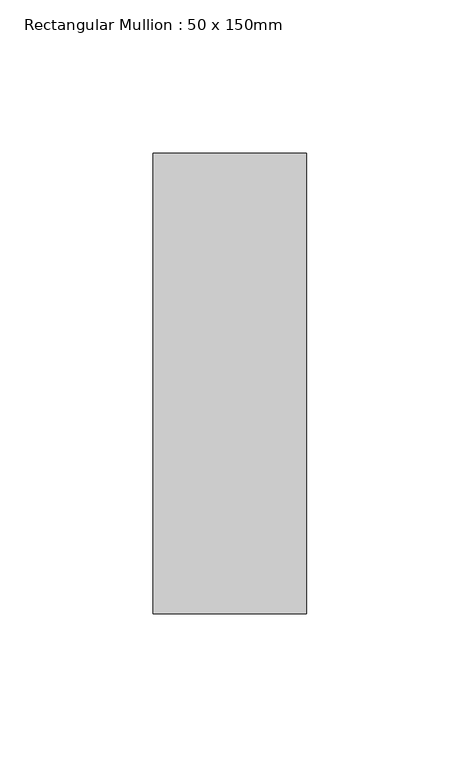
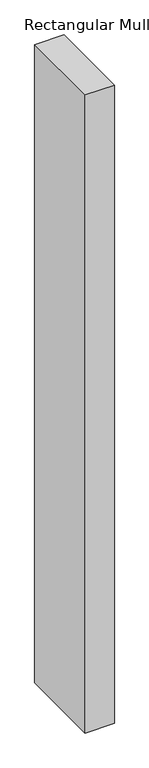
"""IFC4 building model written with IfcOpenShell, lengths in millimetres: member geometry, Rectangular Mullion : 50 x 150mm."""

from ifc_helpers import new_model, si_unit, frame, origin, place, context, project, spatial, polyline, outline, extrude, source, transform, mapped, element, save


def rectangular_mullion_50_x_150mm_232fa5d8(model_context):
    return source(origin(), model_context, "Body", "SweptSolid", [
        extrude(outline(polyline([(0.0, 75.0), (0.0, -75.0), (-50.0, -75.0), (-50.0, 75.0), (0.0, 75.0)])), frame((0.0, 0.0, -1157.1428571), z_axis=(0.0, 0.0, 1.0), x_axis=(1.0, 0.0, 0.0)), (0.0, 0.0, 1.0), 1157.1428571),
    ])


if __name__ == "__main__":
    model = new_model("IFC4")
    model_context = context("Model", 3, world=origin())
    ifc_project = project(units=[si_unit("LENGTHUNIT", "METRE", prefix="MILLI")], contexts=[model_context])
    site = spatial("IfcSite", under=ifc_project)
    building = spatial("IfcBuilding", under=site)
    placement = place(None, origin())
    rectangular_mullion_50_x_150mm_shape = rectangular_mullion_50_x_150mm_232fa5d8(model_context)
    element("IfcMember", 1, ObjectType="Rectangular Mullion : 50 x 150mm", at=placement, inside=building, context=model_context, shape_type="MappedRepresentation", body=[
        mapped(rectangular_mullion_50_x_150mm_shape, transform((0.0, 0.0, 0.0), x_axis=(1.0, 0.0, 0.0), y_axis=(0.0, 1.0, 0.0), z_axis=(0.0, 0.0, 1.0))),
    ])
    save(model, "model.ifc")
